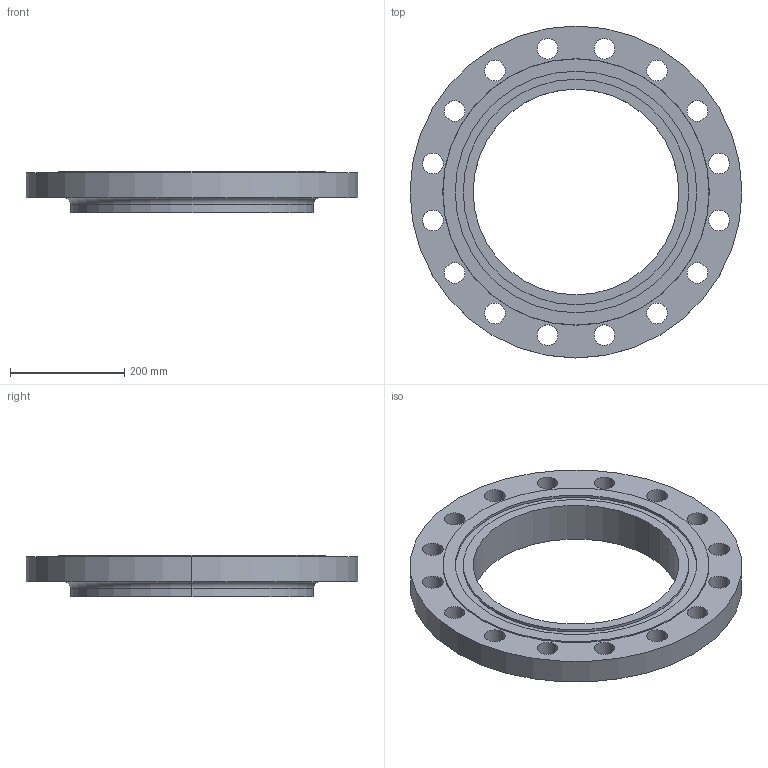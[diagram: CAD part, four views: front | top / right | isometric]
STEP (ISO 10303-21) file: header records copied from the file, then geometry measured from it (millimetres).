
FILE_DESCRIPTION (( 'STEP AP214' ), '1' );
FILE_NAME ('PN40 DN350 Type 12 - Type D Face.STEP', '2019-01-05T21:51:12', ( '' ), ( '' ), 'SwSTEP 2.0', 'SolidWorks 2019', '' );
FILE_SCHEMA (( 'AUTOMOTIVE_DESIGN' ));
Length unit declared in the file: millimetre
Products named in the file (1): PN40 DN350 Type 12 - Type D Face
Bounding box: 580 x 580 x 72 mm (x, y, z)
Volume: 7563410.9 mm3; surface area: 577052.2 mm2
Topology: 1 solids, 1 shells, 52 faces, 136 edges, 90 vertices
Faces by surface type: cylinder 42, plane 6, torus 2, cone 2
Entity records: 1758 total; most frequent: DIRECTION 334, CARTESIAN_POINT 279, ORIENTED_EDGE 272, AXIS2_PLACEMENT_3D 145, EDGE_CURVE 136, CIRCLE 92, EDGE_LOOP 90, VERTEX_POINT 90
